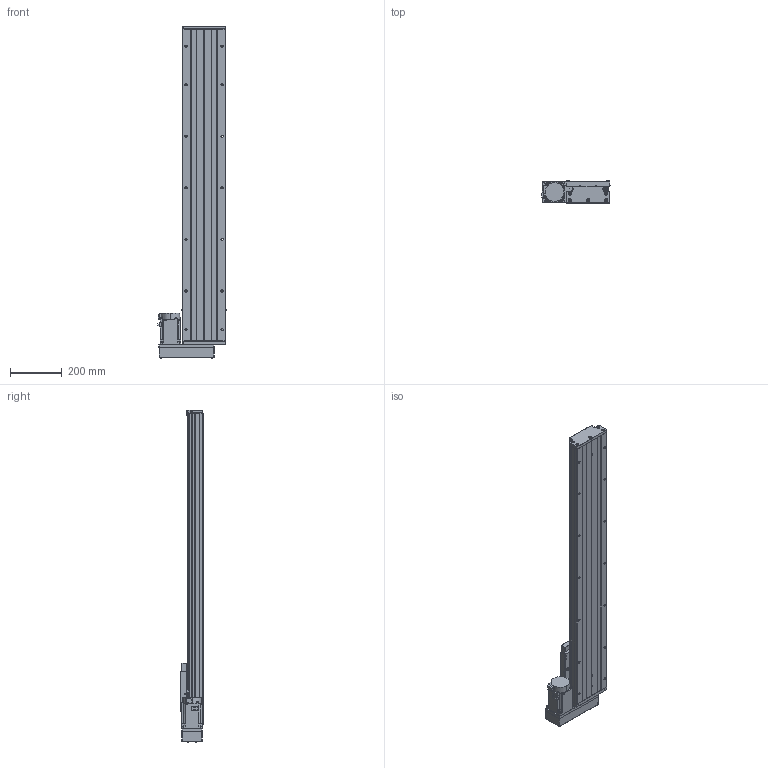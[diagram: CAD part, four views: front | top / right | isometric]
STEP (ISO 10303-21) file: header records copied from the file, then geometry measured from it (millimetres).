
FILE_DESCRIPTION (( 'STEP AP203' ), '1' );
FILE_NAME ('GTH17-950-BL-M75-C4.step', '2023-06-30T12:02:34', ( '微软用户' ), ( '微软中国' ), 'SwSTEP 2.0', 'SolidWorks 2020', '' );
FILE_SCHEMA (( 'CONFIG_CONTROL_DESIGN' ));
Length unit declared in the file: millimetre
Products named in the file (19): GTH17-002_GTH17-002; GBT 70.1-M3℅5; GBT 70.2-M4¡Á45_M4¡Á35; GTH17-004; GBT77-2000 M3×3; GTH17-015-2_CTHA86-015-2; GTH17-005; GBT 70.1-M6¡Á20_M6¡Á20; GTH17-033; GB1155-6X6; GTH17-031; GTH17-950-BL-M75-C4; CTHA60-017; GBT 70.2-M3¡Á5_M3¡Á6; EE_SX911P_R; す晦芛蹟隊 M3℅5; GTH17-001_950; CTHA60-016; HG-KN73J-S100
Assembly tree (58 placements, depth 2):
  GTH17-950-BL-M75-C4
    GTH17-001_950
    GTH17-002_GTH17-002
    GTH17-004
    GTH17-005
    GB1155-6X6  x2
    CTHA60-017  x3
    EE_SX911P_R  x3
    CTHA60-016  x2
    GBT 70.1-M3℅5  x6
    GBT77-2000 M3×3  x6
    GBT 70.1-M6¡Á20_M6¡Á20  x10
    GTH17-031
    GBT 70.2-M3¡Á5_M3¡Á6  x8
    す晦芛蹟隊 M3℅5  x6
    HG-KN73J-S100
    GBT 70.2-M4¡Á45_M4¡Á35  x4
    GTH17-015-2_CTHA86-015-2
    GTH17-033
Bounding box: 264.3 x 87 x 1288.2 mm (x, y, z)
Volume: 10552561.7 mm3; surface area: 1421741.7 mm2
Topology: 61 solids, 61 shells, 2459 faces, 5869 edges, 3635 vertices
Faces by surface type: plane 1312, cylinder 674, cone 297, torus 124, sphere 32, bspline 20
Entity records: 45046 total; most frequent: CARTESIAN_POINT 10416, DIRECTION 6541, ORIENTED_EDGE 6450, EDGE_CURVE 3225, AXIS2_PLACEMENT_3D 2238, LINE 2065, VECTOR 2065, VERTEX_POINT 2047
